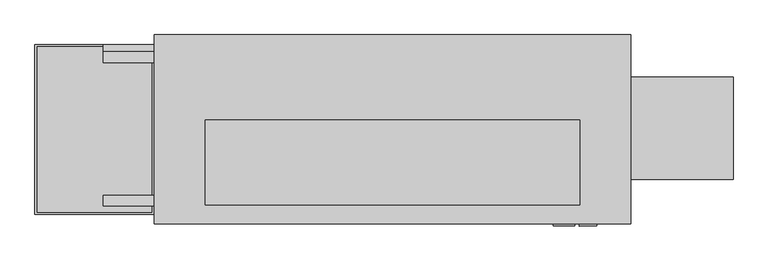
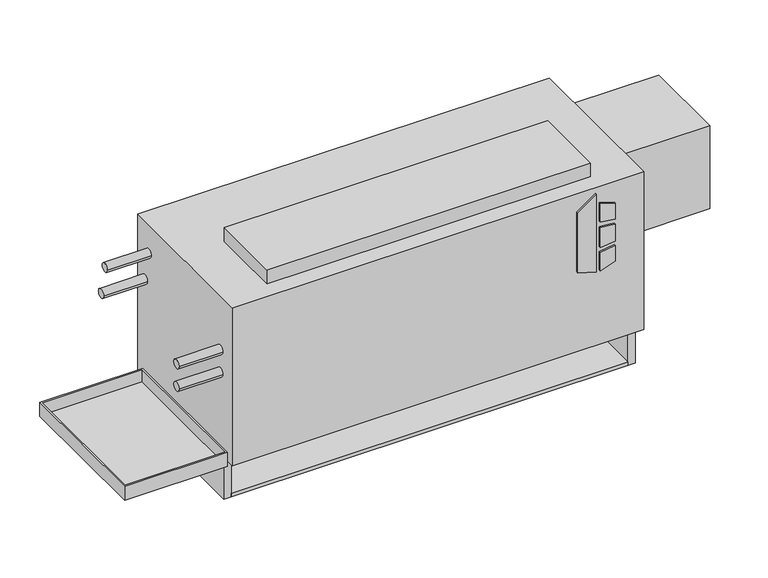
"""IFC4 building model written with IfcOpenShell, lengths in millimetres: proxy geometry, Concealed_Vertical_Low_Boy_Fan_Coil_Unit Fan_-_LHA_-_IEC_-_4-Pipe_LH_2022 : Size 03 - 277v/60Hz/1Ph - 2/1 Coil."""

from ifc_helpers import new_model, si_unit, point, frame, frame_2d, origin, origin_with_axes, place, context, project, spatial, polyline, circle_curve, trimmed, segment, composite_curve, outline, extrude, faceted_brep, source, transform, mapped, element, save


def mechanical_equipment_6b94b423(model_context):
    return source(origin(), model_context, "Body", "SolidModel", [
        faceted_brep([(152.4, -252.4125, 92.075), (-25.4, -252.4125, 92.075), (-25.4, -506.4125, 92.075), (152.4, -506.4125, 92.075), (-22.225, -255.5875, 92.075), (149.225, -255.5875, 92.075), (149.225, -503.2375, 92.075), (-22.225, -503.2375, 92.075), (152.4, -252.4125, 66.675), (152.4, -506.4125, 66.675), (-25.4, -506.4125, 66.675), (-25.4, -252.4125, 66.675), (149.225, -255.5875, 69.8497888), (-22.225, -255.5875, 69.8497888), (-22.225, -503.2375, 69.8497888), (149.225, -503.2375, 69.8497888)], [[[0, 1, 2, 3], [4, 5, 6, 7]], [[8, 9, 10, 11]], [[1, 0, 8, 11]], [[2, 1, 11, 10]], [[3, 2, 10, 9]], [[0, 3, 9, 8]], [[12, 13, 14, 15]], [[13, 12, 5, 4]], [[14, 13, 4, 7]], [[15, 14, 7, 6]], [[12, 15, 6, 5]]]),
        extrude(outline(composite_curve([segment(trimmed(circle_curve(frame_2d((63.5, -379.4125)), 9.525), [point((53.975, -379.4125))], [point((73.025, -379.4125))], False, "CARTESIAN"), True, "CONTINUOUS"), segment(trimmed(circle_curve(frame_2d((63.5, -379.4125)), 9.525), [point((73.025, -379.4125))], [point((53.975, -379.4125))], False, "CARTESIAN"), True, "CONTINUOUS")], self_intersect=False)), frame((0.0, 0.0, 41.275), z_axis=(0.0, 0.0, 1.0), x_axis=(1.0, 0.0, 0.0)), (0.0, 0.0, 1.0), 25.4),
        extrude(outline(polyline([(222.6730703, 747.7868862), (212.725, 779.9602728), (354.8959244, 779.9602728), (331.8739183, 747.7868862), (222.6730703, 747.7868862)])), frame((0.0, -523.875, 0.0), z_axis=(0.0, 1.0, 0.0), x_axis=(0.0, 0.0, 1.0)), (0.0, 0.0, 1.0), 3.175),
        extrude(outline(polyline([(301.6723557, 786.7186058), (298.4699632, 812.8), (327.6988042, 812.8), (335.7632193, 786.7186058), (301.6723557, 786.7186058)])), frame((0.0, -523.875, 0.0), z_axis=(0.0, 1.0, 0.0), x_axis=(0.0, 0.0, 1.0)), (0.0, 0.0, 1.0), 3.175),
        extrude(outline(polyline([(249.8088288, 812.8), (246.1433279, 786.7186058), (212.725, 786.7186058), (221.3592372, 812.8), (249.8088288, 812.8)])), frame((0.0, -523.875, 0.0), z_axis=(0.0, 1.0, 0.0), x_axis=(0.0, 0.0, 1.0)), (0.0, 0.0, 1.0), 3.175),
        extrude(outline(polyline([(289.1239903, 812.8), (291.4058166, 786.7186058), (255.4682681, 786.7186058), (258.2095331, 812.8), (289.1239903, 812.8)])), frame((0.0, -523.875, 0.0), z_axis=(0.0, 1.0, 0.0), x_axis=(0.0, 0.0, 1.0)), (0.0, 0.0, 1.0), 3.175),
        extrude(outline(polyline([(787.4, -365.125), (787.4, -492.125), (228.6, -492.125), (228.6, -365.125), (787.4, -365.125)])), frame((0.0, 0.0, 365.125), z_axis=(0.0, 0.0, 1.0), x_axis=(1.0, 0.0, 0.0)), (0.0, 0.0, 1.0), 25.4),
        extrude(outline(polyline([(863.6, -520.7), (152.4, -520.7), (152.4, -238.125), (863.6, -238.125), (863.6, -520.7)])), frame((0.0, 0.0, 76.2), z_axis=(0.0, 0.0, 1.0), x_axis=(1.0, 0.0, 0.0)), (0.0, 0.0, 1.0), 288.925),
        extrude(outline(polyline([(850.9, -495.3), (165.1, -495.3), (165.1, -244.475), (850.9, -244.475), (850.9, -495.3)])), origin_with_axes(), (0.0, 0.0, 1.0), 6.35),
        extrude(outline(polyline([(850.9, -238.125), (850.9, -244.475), (165.1, -244.475), (165.1, -238.125), (850.9, -238.125)])), origin_with_axes(), (0.0, 0.0, 1.0), 76.2),
        extrude(outline(polyline([(863.6, -238.125), (863.6, -495.3), (850.9, -495.3), (850.9, -238.125), (863.6, -238.125)])), origin_with_axes(), (0.0, 0.0, 1.0), 76.2),
        extrude(outline(polyline([(165.1, -238.125), (165.1, -495.3), (152.4, -495.3), (152.4, -238.125), (165.1, -238.125)])), origin_with_axes(), (0.0, 0.0, 1.0), 76.2),
        extrude(outline(composite_curve([segment(trimmed(circle_curve(frame_2d((-271.4625, 314.325)), 7.9375), [point((-263.525, 314.325))], [point((-279.4, 314.325))], False, "CARTESIAN"), True, "CONTINUOUS"), segment(trimmed(circle_curve(frame_2d((-271.4625, 314.325)), 7.9375), [point((-279.4, 314.325))], [point((-263.525, 314.325))], False, "CARTESIAN"), True, "CONTINUOUS")], self_intersect=False)), frame((76.2, 0.0, 0.0), z_axis=(1.0, 0.0, 0.0), x_axis=(0.0, 1.0, 0.0)), (0.0, 0.0, 1.0), 76.2),
        extrude(outline(composite_curve([segment(trimmed(circle_curve(frame_2d((-260.35, 260.35)), 7.9375), [point((-252.4125, 260.35))], [point((-268.2875, 260.35))], False, "CARTESIAN"), True, "CONTINUOUS"), segment(trimmed(circle_curve(frame_2d((-260.35, 260.35)), 7.9375), [point((-268.2875, 260.35))], [point((-252.4125, 260.35))], False, "CARTESIAN"), True, "CONTINUOUS")], self_intersect=False)), frame((76.2, 0.0, 0.0), z_axis=(1.0, 0.0, 0.0), x_axis=(0.0, 1.0, 0.0)), (0.0, 0.0, 1.0), 76.2),
        extrude(outline(composite_curve([segment(trimmed(circle_curve(frame_2d((-485.775, 227.0125)), 7.9375), [point((-477.8375, 227.0125))], [point((-493.7125, 227.0125))], False, "CARTESIAN"), True, "CONTINUOUS"), segment(trimmed(circle_curve(frame_2d((-485.775, 227.0125)), 7.9375), [point((-493.7125, 227.0125))], [point((-477.8375, 227.0125))], False, "CARTESIAN"), True, "CONTINUOUS")], self_intersect=False)), frame((76.2, 0.0, 0.0), z_axis=(1.0, 0.0, 0.0), x_axis=(0.0, 1.0, 0.0)), (0.0, 0.0, 1.0), 76.2),
        extrude(outline(composite_curve([segment(trimmed(circle_curve(frame_2d((-485.775, 268.2875)), 7.9375), [point((-477.8375, 268.2875))], [point((-493.7125, 268.2875))], False, "CARTESIAN"), True, "CONTINUOUS"), segment(trimmed(circle_curve(frame_2d((-485.775, 268.2875)), 7.9375), [point((-493.7125, 268.2875))], [point((-477.8375, 268.2875))], False, "CARTESIAN"), True, "CONTINUOUS")], self_intersect=False)), frame((76.2, 0.0, 0.0), z_axis=(1.0, 0.0, 0.0), x_axis=(0.0, 1.0, 0.0)), (0.0, 0.0, 1.0), 76.2),
        extrude(outline(polyline([(863.6, -301.625), (1016.0, -301.625), (1016.0, -454.025), (863.6, -454.025), (863.6, -301.625)])), frame((0.0, 0.0, 203.5632719), z_axis=(0.0, 0.0, 1.0), x_axis=(1.0, 0.0, 0.0)), (0.0, 0.0, 1.0), 152.0367281),
    ])


if __name__ == "__main__":
    model = new_model("IFC4")
    model_context = context("Model", 3, world=origin())
    ifc_project = project(units=[si_unit("LENGTHUNIT", "METRE", prefix="MILLI")], contexts=[model_context])
    site = spatial("IfcSite", under=ifc_project)
    building = spatial("IfcBuilding", under=site)
    placement = place(None, origin())
    mechanical_equipment_shape = mechanical_equipment_6b94b423(model_context)
    element("IfcBuildingElementProxy", 1, Name="Concealed_Vertical_Low_Boy_Fan_Coil_Unit Fan_-_LHA_-_IEC_-_4-Pipe_LH_2022 : Size 03 - 277v/60Hz/1Ph - 2/1 Coil", ObjectType="Concealed_Vertical_Low_Boy_Fan_Coil_Unit Fan_-_LHA_-_IEC_-_4-Pipe_LH_2022 : Size 03 - 277v/60Hz/1Ph - 2/1 Coil", at=placement, inside=building, context=model_context, shape_type="MappedRepresentation", body=[
        mapped(mechanical_equipment_shape, transform((0.0, 0.0, 0.0), x_axis=(1.0, 0.0, 0.0), y_axis=(0.0, 1.0, 0.0), z_axis=(0.0, 0.0, 1.0))),
    ])
    save(model, "model.ifc")
